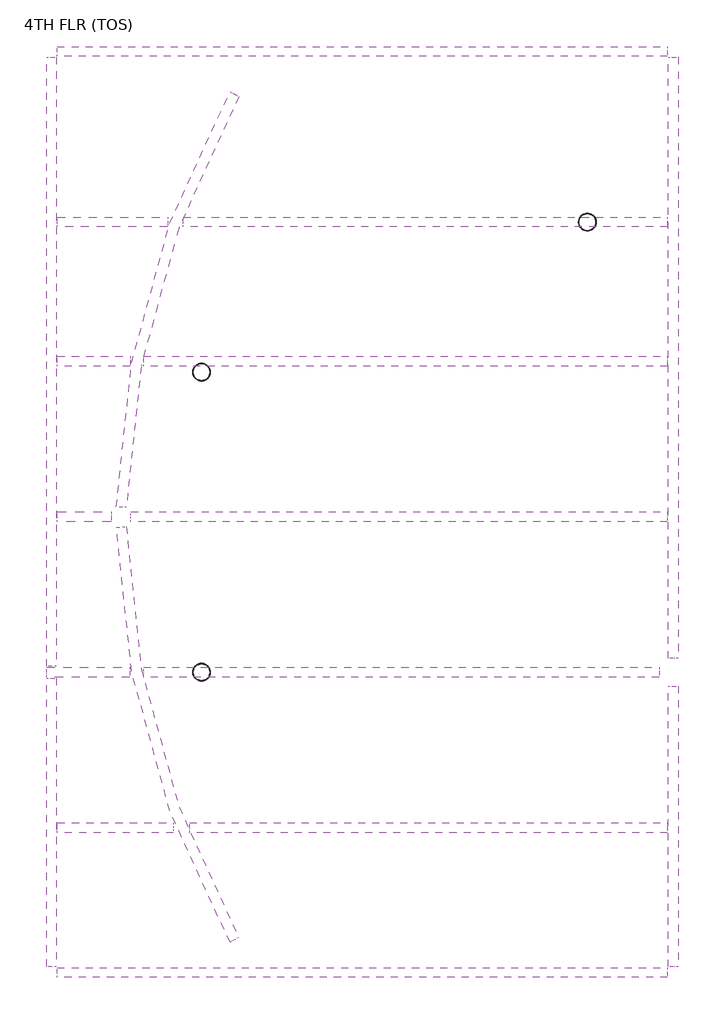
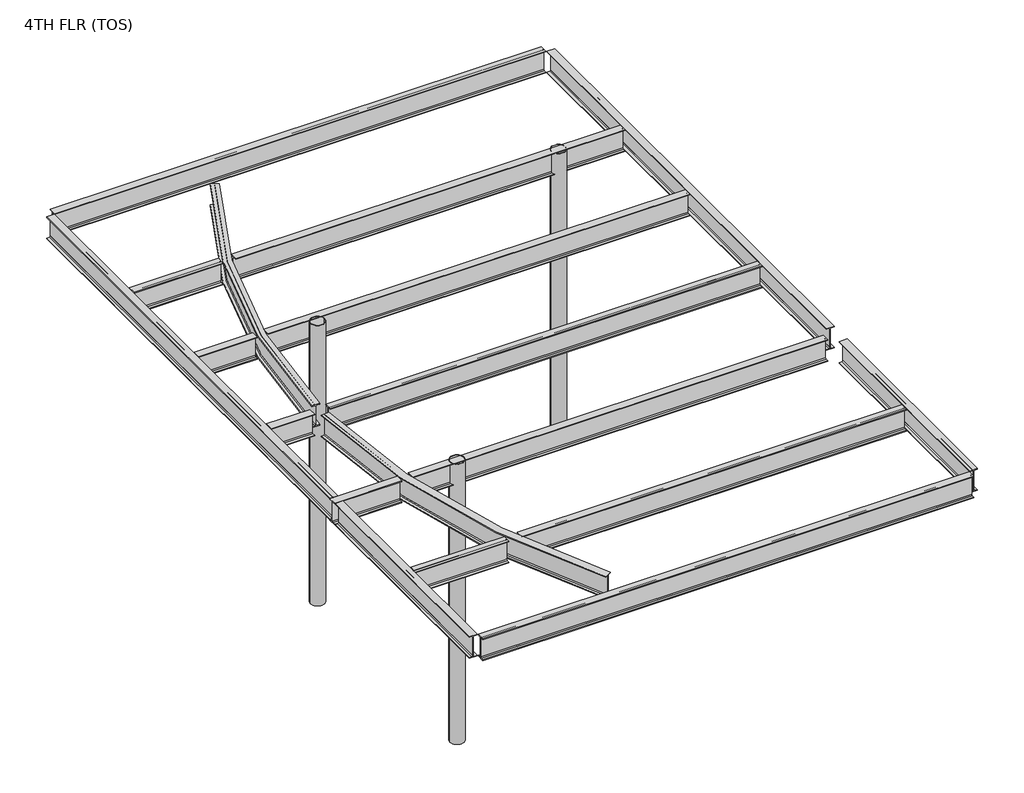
# One storey: 18 beams, 3 columns.
"""IFC4 building model written with IfcOpenShell, lengths in millimetres."""

from ifc_helpers import new_model, si_unit, point, frame, frame_2d, origin, place, context, project, spatial, circle_curve, trimmed, segment, composite_curve, outline, extrude, transform, mapped, element, save
from components import w_wide_flange_w16x31_2595adc3, w_wide_flange_w16x31_d553f2e7, w_wide_flange_w16x31_1a0e2201, w_wide_flange_w16x31_013d4ff7, w_wide_flange_w16x31_38feb42c, w_wide_flange_w16x31_8ecb8886, w_wide_flange_w16x31_dc2757f3, w_wide_flange_w16x31_b5bae09e, w_wide_flange_w16x31_e9b65252, w_wide_flange_w16x31_34482971, w_wide_flange_w16x31_348d06aa, w_wide_flange_w16x31_e54a2e1a, w_wide_flange_w16x31_2e755f9a, w_wide_flange_w16x31_03689333, w_wide_flange_w16x31_034e3d4c, w_wide_flange_w16x31_e0288e10, w_wide_flange_w16x31_3e3183ac, hss_round_hollow_structural_section_column_hss10x0_500_13b5c828

model = new_model("IFC4")

# Units and contexts
model_context = context("Model", 3, world=origin())
ifc_project = project(units=[si_unit("LENGTHUNIT", "METRE", prefix="MILLI")], contexts=[model_context])

# Site, building, storey
site = spatial("IfcSite", under=ifc_project)
building = spatial("IfcBuilding", under=site)
storey = spatial("IfcBuildingStorey", under=building, Name="4TH FLR (TOS)", Elevation=15113.0)

# Beams
placement = place(None, origin())
w_wide_flange_w16x31_shape = w_wide_flange_w16x31_2595adc3(model_context)
element("IfcBeam", 1, ObjectType="W-Wide Flange : W16X31", at=placement, inside=storey, context=model_context, shape_type="MappedRepresentation", body=[
    mapped(w_wide_flange_w16x31_shape, transform((2997.2, 41751.0130758, 20143.47), x_axis=(-0.5014171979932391, 0.8652056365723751, 0.0), y_axis=(-0.8652056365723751, -0.5014171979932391, 0.0), z_axis=(0.0, 0.0, 1.0))),
])
w_wide_flange_w16x31_2_shape = w_wide_flange_w16x31_d553f2e7(model_context)
element("IfcBeam", 2, ObjectType="W-Wide Flange : W16X31", at=placement, inside=storey, context=model_context, shape_type="MappedRepresentation", body=[
    mapped(w_wide_flange_w16x31_2_shape, transform((4724.4, 54546.0261516, 20143.47), x_axis=(1.0, 0.0, 0.0), y_axis=(0.0, 1.0, 0.0), z_axis=(0.0, 0.0, 1.0))),
])
element("IfcBeam", 3, ObjectType="W-Wide Flange : W16X31", at=placement, inside=storey, context=model_context, shape_type="MappedRepresentation", body=[
    mapped(w_wide_flange_w16x31_2_shape, transform((4724.4, 41449.889308, 20143.47), x_axis=(1.0, 0.0, 0.0), y_axis=(0.0, 1.0, 0.0), z_axis=(0.0, 0.0, 1.0))),
])
w_wide_flange_w16x31_3_shape = w_wide_flange_w16x31_1a0e2201(model_context)
element("IfcBeam", 4, ObjectType="W-Wide Flange : W16X31", at=placement, inside=storey, context=model_context, shape_type="MappedRepresentation", body=[
    mapped(w_wide_flange_w16x31_3_shape, transform((9144.0, 50133.0130758, 20143.47), x_axis=(0.0, 1.0, 0.0), y_axis=(-1.0, 0.0, 0.0), z_axis=(0.0, 0.0, 1.0))),
])
w_wide_flange_w16x31_4_shape = w_wide_flange_w16x31_013d4ff7(model_context)
element("IfcBeam", 5, ObjectType="W-Wide Flange : W16X31", at=placement, inside=storey, context=model_context, shape_type="MappedRepresentation", body=[
    mapped(w_wide_flange_w16x31_4_shape, transform((5330.8979124, 45720.0, 20143.47), x_axis=(-1.0, 0.0, 0.0), y_axis=(0.0, -1.0, 0.0), z_axis=(0.0, 0.0, 1.0))),
])
w_wide_flange_w16x31_5_shape = w_wide_flange_w16x31_38feb42c(model_context)
element("IfcBeam", 6, ObjectType="W-Wide Flange : W16X31", at=placement, inside=storey, context=model_context, shape_type="MappedRepresentation", body=[
    mapped(w_wide_flange_w16x31_5_shape, transform((304.8, 50133.0130758, 20143.47), x_axis=(0.0, -1.0, 0.0), y_axis=(1.0, 0.0, 0.0), z_axis=(0.0, 0.0, 1.0))),
])
w_wide_flange_w16x31_6_shape = w_wide_flange_w16x31_8ecb8886(model_context)
element("IfcBeam", 7, ObjectType="W-Wide Flange : W16X31", at=placement, inside=storey, context=model_context, shape_type="MappedRepresentation", body=[
    mapped(w_wide_flange_w16x31_6_shape, transform((2997.2, 54102.0, 20143.47), x_axis=(-0.5014171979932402, -0.8652056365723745, 0.0), y_axis=(0.8652056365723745, -0.5014171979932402, 0.0), z_axis=(0.0, 0.0, 1.0))),
])
w_wide_flange_w16x31_7_shape = w_wide_flange_w16x31_dc2757f3(model_context)
element("IfcBeam", 8, ObjectType="W-Wide Flange : W16X31", at=placement, inside=storey, context=model_context, shape_type="MappedRepresentation", body=[
    mapped(w_wide_flange_w16x31_7_shape, transform((1186.4394898, 52120.8, 20143.47), x_axis=(-1.0, 0.0, 0.0), y_axis=(0.0, -1.0, 0.0), z_axis=(0.0, 0.0, 1.0))),
])
w_wide_flange_w16x31_8_shape = w_wide_flange_w16x31_b5bae09e(model_context)
element("IfcBeam", 9, ObjectType="W-Wide Flange : W16X31", at=placement, inside=storey, context=model_context, shape_type="MappedRepresentation", body=[
    mapped(w_wide_flange_w16x31_8_shape, transform((911.2979124, 45720.0, 20143.47), x_axis=(-1.0, 0.0, 0.0), y_axis=(0.0, -1.0, 0.0), z_axis=(0.0, 0.0, 1.0))),
])
w_wide_flange_w16x31_9_shape = w_wide_flange_w16x31_e9b65252(model_context)
element("IfcBeam", 10, ObjectType="W-Wide Flange : W16X31", at=placement, inside=storey, context=model_context, shape_type="MappedRepresentation", body=[
    mapped(w_wide_flange_w16x31_9_shape, transform((5606.0394898, 52120.8, 20143.47), x_axis=(1.0, 0.0, 0.0), y_axis=(0.0, 1.0, 0.0), z_axis=(0.0, 0.0, 1.0))),
])
w_wide_flange_w16x31_10_shape = w_wide_flange_w16x31_34482971(model_context)
element("IfcBeam", 11, ObjectType="W-Wide Flange : W16X31", at=placement, inside=storey, context=model_context, shape_type="MappedRepresentation", body=[
    mapped(w_wide_flange_w16x31_10_shape, transform((5647.9734806, 43510.2, 20143.47), x_axis=(-1.0, 0.0, 0.0), y_axis=(0.0, -1.0, 0.0), z_axis=(0.0, 0.0, 1.0))),
])
w_wide_flange_w16x31_11_shape = w_wide_flange_w16x31_348d06aa(model_context)
element("IfcBeam", 12, ObjectType="W-Wide Flange : W16X31", at=placement, inside=storey, context=model_context, shape_type="MappedRepresentation", body=[
    mapped(w_wide_flange_w16x31_11_shape, transform((5219.7209019, 47929.8, 20143.47), x_axis=(1.0, 0.0, 0.0), y_axis=(0.0, 1.0, 0.0), z_axis=(0.0, 0.0, 1.0))),
])
w_wide_flange_w16x31_12_shape = w_wide_flange_w16x31_e54a2e1a(model_context)
element("IfcBeam", 13, ObjectType="W-Wide Flange : W16X31", at=placement, inside=storey, context=model_context, shape_type="MappedRepresentation", body=[
    mapped(w_wide_flange_w16x31_12_shape, transform((5331.5265538, 50139.6, 20143.47), x_axis=(1.0, 0.0, 0.0), y_axis=(0.0, 1.0, 0.0), z_axis=(0.0, 0.0, 1.0))),
])
w_wide_flange_w16x31_13_shape = w_wide_flange_w16x31_2e755f9a(model_context)
element("IfcBeam", 14, ObjectType="W-Wide Flange : W16X31", at=placement, inside=storey, context=model_context, shape_type="MappedRepresentation", body=[
    mapped(w_wide_flange_w16x31_13_shape, transform((911.9265538, 50139.6, 20143.47), x_axis=(-1.0, 0.0, 0.0), y_axis=(0.0, -1.0, 0.0), z_axis=(0.0, 0.0, 1.0))),
])
w_wide_flange_w16x31_14_shape = w_wide_flange_w16x31_03689333(model_context)
element("IfcBeam", 15, ObjectType="W-Wide Flange : W16X31", at=placement, inside=storey, context=model_context, shape_type="MappedRepresentation", body=[
    mapped(w_wide_flange_w16x31_14_shape, transform((800.1209019, 47929.8, 20143.47), x_axis=(-1.0, 0.0, 0.0), y_axis=(0.0, -1.0, 0.0), z_axis=(0.0, 0.0, 1.0))),
])
w_wide_flange_w16x31_15_shape = w_wide_flange_w16x31_034e3d4c(model_context)
element("IfcBeam", 16, ObjectType="W-Wide Flange : W16X31", at=placement, inside=storey, context=model_context, shape_type="MappedRepresentation", body=[
    mapped(w_wide_flange_w16x31_15_shape, transform((304.8, 43584.944654, 20143.47), x_axis=(0.0, -1.0, 0.0), y_axis=(1.0, 0.0, 0.0), z_axis=(0.0, 0.0, 1.0))),
])
w_wide_flange_w16x31_16_shape = w_wide_flange_w16x31_e0288e10(model_context)
element("IfcBeam", 17, ObjectType="W-Wide Flange : W16X31", at=placement, inside=storey, context=model_context, shape_type="MappedRepresentation", body=[
    mapped(w_wide_flange_w16x31_16_shape, transform((1228.3734806, 43510.2, 20143.47), x_axis=(-1.0, 0.0, 0.0), y_axis=(0.0, -1.0, 0.0), z_axis=(0.0, 0.0, 1.0))),
])
w_wide_flange_w16x31_17_shape = w_wide_flange_w16x31_3e3183ac(model_context)
element("IfcBeam", 18, ObjectType="W-Wide Flange : W16X31", at=placement, inside=storey, context=model_context, shape_type="MappedRepresentation", body=[
    mapped(w_wide_flange_w16x31_17_shape, transform((9144.0, 43584.944654, 20143.47), x_axis=(0.0, 1.0, 0.0), y_axis=(-1.0, 0.0, 0.0), z_axis=(0.0, 0.0, 1.0))),
])

# Columns
element("IfcColumn", 19, ObjectType="HSS-Round Hollow Structural Section-Column : HSS10X0.500", at=placement, inside=storey, context=model_context, shape_type="SweptSolid", body=[
    extrude(outline(composite_curve([segment(trimmed(circle_curve(frame_2d((2438.4, 49987.2)), 127.0), [point((2311.4, 49987.2))], [point((2565.4, 49987.2))], False, "CARTESIAN"), True, "CONTINUOUS"), segment(trimmed(circle_curve(frame_2d((2438.4, 49987.2)), 127.0), [point((2565.4, 49987.2))], [point((2311.4, 49987.2))], False, "CARTESIAN"), True, "CONTINUOUS")], self_intersect=False), holes=[composite_curve([segment(trimmed(circle_curve(frame_2d((2438.4, 49987.2)), 115.189), [point((2323.211, 49987.2))], [point((2553.589, 49987.2))], True, "CARTESIAN"), True, "CONTINUOUS"), segment(trimmed(circle_curve(frame_2d((2438.4, 49987.2)), 115.189), [point((2553.589, 49987.2))], [point((2323.211, 49987.2))], True, "CARTESIAN"), True, "CONTINUOUS")], self_intersect=False)]), frame((0.0, 0.0, 15113.0), z_axis=(0.0, 0.0, 1.0), x_axis=(1.0, 0.0, 0.0)), (0.0, 0.0, 1.0), 5232.4),
])
element("IfcColumn", 20, ObjectType="HSS-Round Hollow Structural Section-Column : HSS10X0.500", at=placement, inside=storey, context=model_context, shape_type="SweptSolid", body=[
    extrude(outline(composite_curve([segment(trimmed(circle_curve(frame_2d((2438.4, 45720.0)), 127.0), [point((2311.4, 45720.0))], [point((2565.4, 45720.0))], False, "CARTESIAN"), True, "CONTINUOUS"), segment(trimmed(circle_curve(frame_2d((2438.4, 45720.0)), 127.0), [point((2565.4, 45720.0))], [point((2311.4, 45720.0))], False, "CARTESIAN"), True, "CONTINUOUS")], self_intersect=False), holes=[composite_curve([segment(trimmed(circle_curve(frame_2d((2438.4, 45720.0)), 115.189), [point((2323.211, 45720.0))], [point((2553.589, 45720.0))], True, "CARTESIAN"), True, "CONTINUOUS"), segment(trimmed(circle_curve(frame_2d((2438.4, 45720.0)), 115.189), [point((2553.589, 45720.0))], [point((2323.211, 45720.0))], True, "CARTESIAN"), True, "CONTINUOUS")], self_intersect=False)]), frame((0.0, 0.0, 15113.0), z_axis=(0.0, 0.0, 1.0), x_axis=(1.0, 0.0, 0.0)), (0.0, 0.0, 1.0), 5232.4),
])
hss_round_hollow_structural_section_column_hss10x0_500_shape = hss_round_hollow_structural_section_column_hss10x0_500_13b5c828(model_context)
element("IfcColumn", 21, ObjectType="HSS-Round Hollow Structural Section-Column : HSS10X0.500", at=placement, inside=storey, context=model_context, shape_type="MappedRepresentation", body=[
    mapped(hss_round_hollow_structural_section_column_hss10x0_500_shape, transform((7924.8, 52120.8, 0.0), x_axis=(1.0, 0.0, 0.0), y_axis=(0.0, 1.0, 0.0), z_axis=(0.0, 0.0, 1.0))),
])

save(model, "model.ifc")
